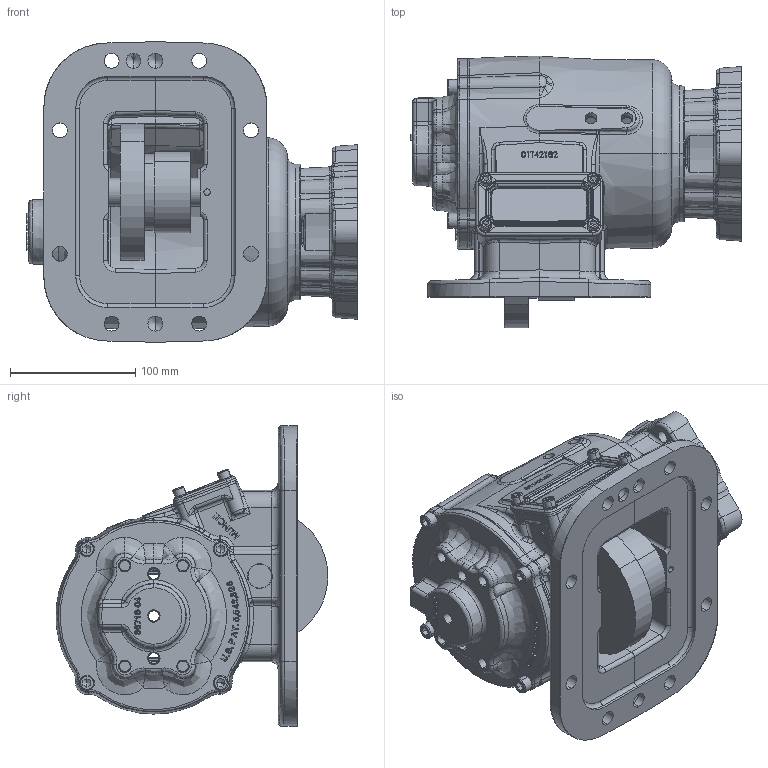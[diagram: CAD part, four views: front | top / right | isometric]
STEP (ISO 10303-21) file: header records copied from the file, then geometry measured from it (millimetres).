
FILE_DESCRIPTION (( 'STEP AP203' ), '1' );
FILE_NAME ('CS8S-XXXXX-X1IX.STEP', '2012-06-01T18:28:14', ( '' ), ( '' ), 'SwSTEP 2.0', 'SolidWorks 2012', '' );
FILE_SCHEMA (( 'CONFIG_CONTROL_DESIGN' ));
Length unit declared in the file: millimetre
Products named in the file (3): CS8S-XXXXX-X1IX; 14T39406-1; CS8S-XXXXX-X1XX
Assembly tree (2 placements, depth 2):
  CS8S-XXXXX-X1IX
    CS8S-XXXXX-X1XX
    14T39406-1
Bounding box: 263.71 x 216.73 x 239.61 mm (x, y, z)
Volume: 1857340.9 mm3; surface area: 450020.7 mm2
Topology: 4 solids, 16 shells, 2273 faces, 5758 edges, 3541 vertices
Faces by surface type: bspline 796, plane 552, cylinder 464, cone 318, torus 137, sphere 6
Entity records: 121473 total; most frequent: CARTESIAN_POINT 72431, ORIENTED_EDGE 11354, DIRECTION 8304, EDGE_CURVE 5677, VERTEX_POINT 3541, AXIS2_PLACEMENT_3D 3092, EDGE_LOOP 2480, ADVANCED_FACE 2273
